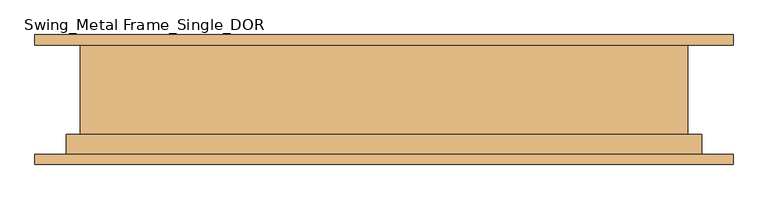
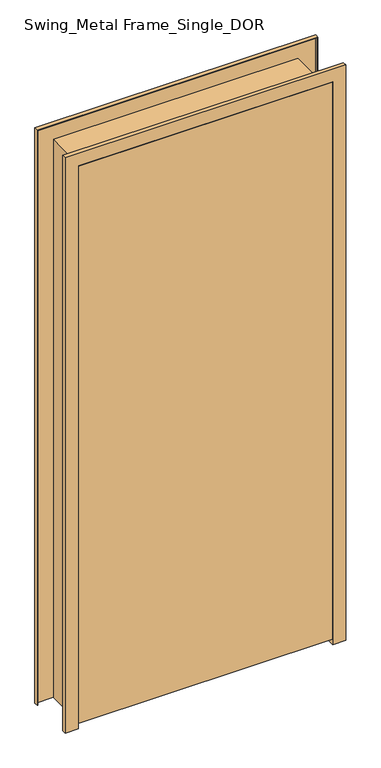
"""IFC4 building model written with IfcOpenShell, lengths in millimetres: door geometry, Swing_Metal Frame_Single_DOR : 2140h x 920 (2210x1010 BLK)."""

from ifc_helpers import new_model, si_unit, frame, origin, place, context, project, spatial, polyline, outline, extrude, faceted_brep, source, transform, mapped, element, save


def swing_metal_frame_single_dor_0861dc3d(model_context):
    return source(origin(), model_context, "Body", "SolidModel", [
        extrude(outline(polyline([(460.0, -55.0), (-460.0, -55.0), (-460.0, -15.0), (460.0, -15.0), (460.0, -55.0)])), frame((0.0, 0.0, 20.0), z_axis=(0.0, 0.0, 1.0), x_axis=(1.0, 0.0, 0.0)), (0.0, 0.0, 1.0), 2140.0),
        faceted_brep([(-510.0, 135.0, 0.0), (-442.0, 135.0, 0.0), (-442.0, -13.0, 0.0), (-462.0, -13.0, 0.0), (-462.0, -55.0, 0.0), (-510.0, -55.0, 0.0), (-510.0, -40.0, 0.0), (-508.0, -40.0, 0.0), (-508.0, -53.0, 0.0), (-464.0, -53.0, 0.0), (-464.0, -11.0, 0.0), (-444.0, -11.0, 0.0), (-444.0, 133.0, 0.0), (-508.0, 133.0, 0.0), (-508.0, 120.0, 0.0), (-510.0, 120.0, 0.0), (-510.0, 120.0, 2210.0), (-510.0, 135.0, 2210.0), (-508.0, 120.0, 2208.0), (508.0, 120.0, 2208.0), (508.0, 120.0, 0.0), (510.0, 120.0, 0.0), (510.0, 120.0, 2210.0), (-508.0, 133.0, 2208.0), (-444.0, 133.0, 2144.0), (444.0, 133.0, 2144.0), (444.0, 133.0, 0.0), (508.0, 133.0, 0.0), (508.0, 133.0, 2208.0), (-444.0, -11.0, 2144.0), (-464.0, -11.0, 2164.0), (464.0, -11.0, 2164.0), (464.0, -11.0, 0.0), (444.0, -11.0, 0.0), (444.0, -11.0, 2144.0), (-464.0, -53.0, 2164.0), (-508.0, -53.0, 2208.0), (508.0, -53.0, 2208.0), (508.0, -53.0, 0.0), (464.0, -53.0, 0.0), (464.0, -53.0, 2164.0), (-508.0, -40.0, 2208.0), (-510.0, -40.0, 2210.0), (510.0, -40.0, 2210.0), (510.0, -40.0, 0.0), (508.0, -40.0, 0.0), (508.0, -40.0, 2208.0), (-510.0, -55.0, 2210.0), (-462.0, -55.0, 2162.0), (462.0, -55.0, 2162.0), (462.0, -55.0, 0.0), (510.0, -55.0, 0.0), (510.0, -55.0, 2210.0), (-462.0, -13.0, 2162.0), (-442.0, -13.0, 2142.0), (442.0, -13.0, 2142.0), (442.0, -13.0, 0.0), (462.0, -13.0, 0.0), (462.0, -13.0, 2162.0), (-442.0, 135.0, 2142.0), (510.0, 135.0, 2210.0), (510.0, 135.0, 0.0), (442.0, 135.0, 0.0), (442.0, 135.0, 2142.0)], [[[0, 1, 2, 3, 4, 5, 6, 7, 8, 9, 10, 11, 12, 13, 14, 15]], [[15, 16, 17, 0]], [[14, 18, 19, 20, 21, 22, 16, 15]], [[13, 23, 18, 14]], [[12, 24, 25, 26, 27, 28, 23, 13]], [[11, 29, 24, 12]], [[10, 30, 31, 32, 33, 34, 29, 11]], [[9, 35, 30, 10]], [[8, 36, 37, 38, 39, 40, 35, 9]], [[7, 41, 36, 8]], [[6, 42, 43, 44, 45, 46, 41, 7]], [[5, 47, 42, 6]], [[4, 48, 49, 50, 51, 52, 47, 5]], [[3, 53, 48, 4]], [[2, 54, 55, 56, 57, 58, 53, 3]], [[1, 59, 54, 2]], [[0, 17, 60, 61, 62, 63, 59, 1]], [[22, 21, 61, 60]], [[61, 21, 20, 27, 26, 33, 32, 39, 38, 45, 44, 51, 50, 57, 56, 62]], [[28, 27, 20, 19]], [[34, 33, 26, 25]], [[40, 39, 32, 31]], [[46, 45, 38, 37]], [[52, 51, 44, 43]], [[58, 57, 50, 49]], [[63, 62, 56, 55]], [[16, 22, 60, 17]], [[23, 28, 19, 18]], [[29, 34, 25, 24]], [[35, 40, 31, 30]], [[41, 46, 37, 36]], [[47, 52, 43, 42]], [[53, 58, 49, 48]], [[59, 63, 55, 54]]]),
    ])


if __name__ == "__main__":
    model = new_model("IFC4")
    model_context = context("Model", 3, world=origin())
    ifc_project = project(units=[si_unit("LENGTHUNIT", "METRE", prefix="MILLI")], contexts=[model_context])
    site = spatial("IfcSite", under=ifc_project)
    building = spatial("IfcBuilding", under=site)
    placement = place(None, origin())
    swing_metal_frame_single_dor_shape = swing_metal_frame_single_dor_0861dc3d(model_context)
    element("IfcDoor", 1, ObjectType="Swing_Metal Frame_Single_DOR : 2140h x 920 (2210x1010 BLK)", at=placement, inside=building, context=model_context, shape_type="MappedRepresentation", body=[
        mapped(swing_metal_frame_single_dor_shape, transform((0.0, 0.0, 0.0), x_axis=(1.0, 0.0, 0.0), y_axis=(0.0, 1.0, 0.0), z_axis=(0.0, 0.0, 1.0))),
    ])
    save(model, "model.ifc")
